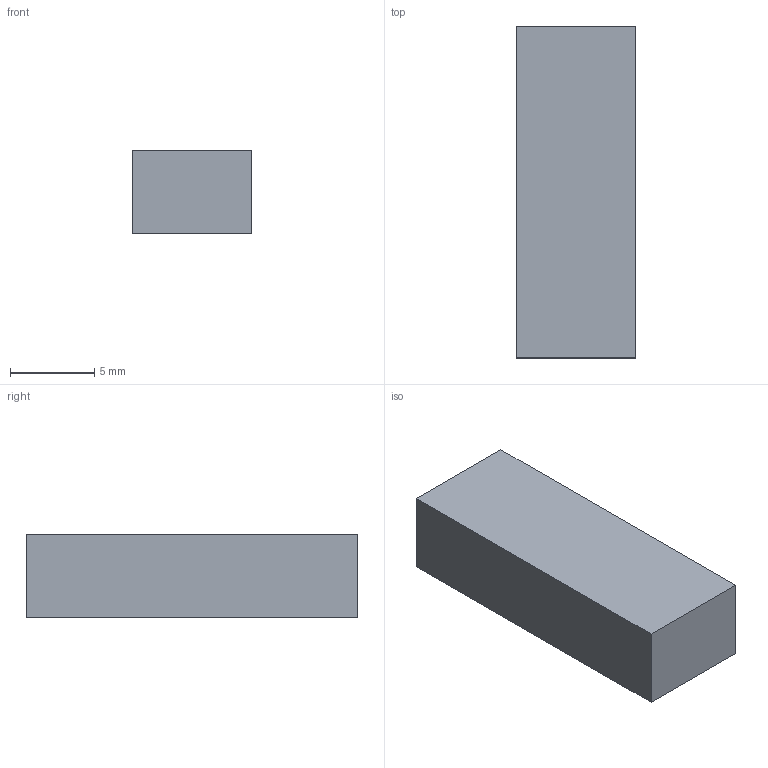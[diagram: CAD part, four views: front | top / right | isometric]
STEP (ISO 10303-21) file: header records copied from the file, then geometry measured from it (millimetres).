
FILE_DESCRIPTION(('Open CASCADE Model'),'2;1');
FILE_NAME('Open CASCADE Shape Model','2018-03-12T10:50:02',('Author'),( 'Open CASCADE'),'Open CASCADE STEP processor 6.8','Open CASCADE 6.8' ,'Unknown');
FILE_SCHEMA(('AUTOMOTIVE_DESIGN { 1 0 10303 214 1 1 1 1 }'));
Length unit declared in the file: millimetre
Products named in the file (2): PCB; Extruded
Assembly tree (1 placements, depth 2):
  PCB
    Extruded
Bounding box: 7.1 x 19.7 x 4.96 mm (x, y, z)
Volume: 693.8 mm3; surface area: 545.6 mm2
Topology: 1 solids, 1 shells, 6 faces, 12 edges, 8 vertices
Faces by surface type: plane 6
Entity records: 195 total; most frequent: CARTESIAN_POINT 28, DIRECTION 28, ORIENTED_EDGE 24, EDGE_CURVE 12, LINE 12, VECTOR 12, AXIS2_PLACEMENT_3D 8, VERTEX_POINT 8
